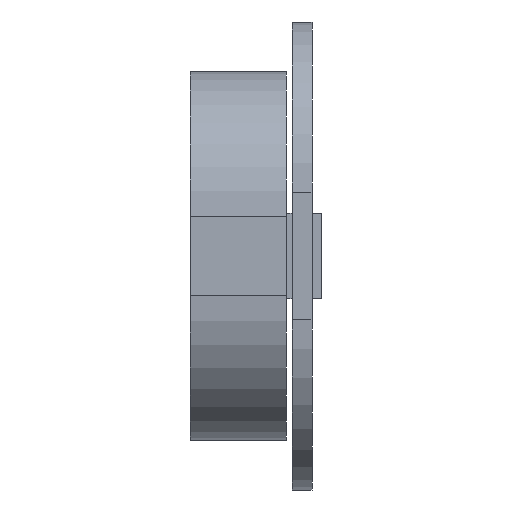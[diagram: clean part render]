
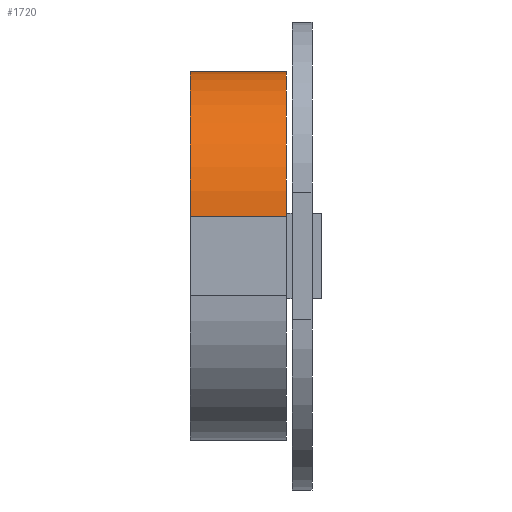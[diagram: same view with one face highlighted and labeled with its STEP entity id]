
A CAD part, front view. The second image highlights one B-rep face of the part: STEP entity #1720.
In plain terms, the highlighted cylindrical face has radius 5.1 mm (diameter 10.2 mm), a partial arc.
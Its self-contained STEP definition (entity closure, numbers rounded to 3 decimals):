
#974 = PLANE('',#975);
#975 = AXIS2_PLACEMENT_3D('',#976,#977,#978);
#976 = CARTESIAN_POINT('',(-40.9,-19.,6.5));
#977 = DIRECTION('',(-1.,0.,0.));
#978 = DIRECTION('',(0.,0.,1.));
#1316 = VERTEX_POINT('',#1317);
#1317 = CARTESIAN_POINT('',(-40.9,-13.9,6.5));
#1333 = PLANE('',#1334);
#1334 = AXIS2_PLACEMENT_3D('',#1335,#1336,#1337);
#1335 = CARTESIAN_POINT('',(-40.9,-19.,6.5));
#1336 = DIRECTION('',(0.,-0.,-1.));
#1337 = DIRECTION('',(1.,0.,0.));
#1345 = EDGE_CURVE('',#1316,#1346,#1348,.T.);
#1346 = VERTEX_POINT('',#1347);
#1347 = CARTESIAN_POINT('',(-40.9,-19.,1.4));
#1348 = SURFACE_CURVE('',#1349,(#1354,#1365),.PCURVE_S1.);
#1349 = CIRCLE('',#1350,5.1);
#1350 = AXIS2_PLACEMENT_3D('',#1351,#1352,#1353);
#1351 = CARTESIAN_POINT('',(-40.9,-13.9,1.4));
#1352 = DIRECTION('',(1.,0.,0.));
#1353 = DIRECTION('',(-0.,-1.,-0.));
#1354 = PCURVE('',#974,#1355);
#1355 = DEFINITIONAL_REPRESENTATION('',(#1356),#1364);
#1356 = ( BOUNDED_CURVE() B_SPLINE_CURVE(2,(#1357,#1358,#1359,#1360,
#1361,#1362,#1363),.UNSPECIFIED.,.T.,.F.) B_SPLINE_CURVE_WITH_KNOTS((1,2
    ,2,2,2,1),(-2.094,0.,2.094,4.189,
6.283,8.378),.UNSPECIFIED.) CURVE() 
GEOMETRIC_REPRESENTATION_ITEM() RATIONAL_B_SPLINE_CURVE((1.,0.5,1.,0.5,
1.,0.5,1.)) REPRESENTATION_ITEM('') );
#1357 = CARTESIAN_POINT('',(-5.1,0.));
#1358 = CARTESIAN_POINT('',(-13.933,0.));
#1359 = CARTESIAN_POINT('',(-9.517,7.65));
#1360 = CARTESIAN_POINT('',(-5.1,15.3));
#1361 = CARTESIAN_POINT('',(-0.683,7.65));
#1362 = CARTESIAN_POINT('',(3.733,0.));
#1363 = CARTESIAN_POINT('',(-5.1,0.));
#1364 = ( GEOMETRIC_REPRESENTATION_CONTEXT(2) 
PARAMETRIC_REPRESENTATION_CONTEXT() REPRESENTATION_CONTEXT('2D SPACE',''
  ) );
#1365 = PCURVE('',#1366,#1371);
#1366 = CYLINDRICAL_SURFACE('',#1367,5.1);
#1367 = AXIS2_PLACEMENT_3D('',#1368,#1369,#1370);
#1368 = CARTESIAN_POINT('',(-40.9,-13.9,1.4));
#1369 = DIRECTION('',(-1.,-0.,0.));
#1370 = DIRECTION('',(0.,-0.,1.));
#1371 = DEFINITIONAL_REPRESENTATION('',(#1372),#1376);
#1372 = LINE('',#1373,#1374);
#1373 = CARTESIAN_POINT('',(4.712,-0.));
#1374 = VECTOR('',#1375,1.);
#1375 = DIRECTION('',(-1.,0.));
#1376 = ( GEOMETRIC_REPRESENTATION_CONTEXT(2) 
PARAMETRIC_REPRESENTATION_CONTEXT() REPRESENTATION_CONTEXT('2D SPACE',''
  ) );
#1394 = PLANE('',#1395);
#1395 = AXIS2_PLACEMENT_3D('',#1396,#1397,#1398);
#1396 = CARTESIAN_POINT('',(-40.9,-19.,6.5));
#1397 = DIRECTION('',(0.,1.,0.));
#1398 = DIRECTION('',(1.,0.,0.));
#1568 = VERTEX_POINT('',#1569);
#1569 = CARTESIAN_POINT('',(-44.3,-13.9,6.5));
#1585 = PLANE('',#1586);
#1586 = AXIS2_PLACEMENT_3D('',#1587,#1588,#1589);
#1587 = CARTESIAN_POINT('',(-44.3,-19.,6.5));
#1588 = DIRECTION('',(-1.,0.,0.));
#1589 = DIRECTION('',(0.,0.,1.));
#1597 = EDGE_CURVE('',#1316,#1568,#1598,.T.);
#1598 = SURFACE_CURVE('',#1599,(#1603,#1610),.PCURVE_S1.);
#1599 = LINE('',#1600,#1601);
#1600 = CARTESIAN_POINT('',(-40.9,-13.9,6.5));
#1601 = VECTOR('',#1602,1.);
#1602 = DIRECTION('',(-1.,-0.,0.));
#1603 = PCURVE('',#1333,#1604);
#1604 = DEFINITIONAL_REPRESENTATION('',(#1605),#1609);
#1605 = LINE('',#1606,#1607);
#1606 = CARTESIAN_POINT('',(-0.,-5.1));
#1607 = VECTOR('',#1608,1.);
#1608 = DIRECTION('',(-1.,0.));
#1609 = ( GEOMETRIC_REPRESENTATION_CONTEXT(2) 
PARAMETRIC_REPRESENTATION_CONTEXT() REPRESENTATION_CONTEXT('2D SPACE',''
  ) );
#1610 = PCURVE('',#1366,#1611);
#1611 = DEFINITIONAL_REPRESENTATION('',(#1612),#1616);
#1612 = LINE('',#1613,#1614);
#1613 = CARTESIAN_POINT('',(-0.,0.));
#1614 = VECTOR('',#1615,1.);
#1615 = DIRECTION('',(-0.,1.));
#1616 = ( GEOMETRIC_REPRESENTATION_CONTEXT(2) 
PARAMETRIC_REPRESENTATION_CONTEXT() REPRESENTATION_CONTEXT('2D SPACE',''
  ) );
#1720 = ADVANCED_FACE('',(#1721),#1366,.T.);
#1721 = FACE_BOUND('',#1722,.F.);
#1722 = EDGE_LOOP('',(#1723,#1724,#1747,#1773));
#1723 = ORIENTED_EDGE('',*,*,#1345,.T.);
#1724 = ORIENTED_EDGE('',*,*,#1725,.T.);
#1725 = EDGE_CURVE('',#1346,#1726,#1728,.T.);
#1726 = VERTEX_POINT('',#1727);
#1727 = CARTESIAN_POINT('',(-44.3,-19.,1.4));
#1728 = SURFACE_CURVE('',#1729,(#1733,#1740),.PCURVE_S1.);
#1729 = LINE('',#1730,#1731);
#1730 = CARTESIAN_POINT('',(-40.9,-19.,1.4));
#1731 = VECTOR('',#1732,1.);
#1732 = DIRECTION('',(-1.,-0.,0.));
#1733 = PCURVE('',#1366,#1734);
#1734 = DEFINITIONAL_REPRESENTATION('',(#1735),#1739);
#1735 = LINE('',#1736,#1737);
#1736 = CARTESIAN_POINT('',(-1.571,0.));
#1737 = VECTOR('',#1738,1.);
#1738 = DIRECTION('',(-0.,1.));
#1739 = ( GEOMETRIC_REPRESENTATION_CONTEXT(2) 
PARAMETRIC_REPRESENTATION_CONTEXT() REPRESENTATION_CONTEXT('2D SPACE',''
  ) );
#1740 = PCURVE('',#1394,#1741);
#1741 = DEFINITIONAL_REPRESENTATION('',(#1742),#1746);
#1742 = LINE('',#1743,#1744);
#1743 = CARTESIAN_POINT('',(0.,5.1));
#1744 = VECTOR('',#1745,1.);
#1745 = DIRECTION('',(-1.,0.));
#1746 = ( GEOMETRIC_REPRESENTATION_CONTEXT(2) 
PARAMETRIC_REPRESENTATION_CONTEXT() REPRESENTATION_CONTEXT('2D SPACE',''
  ) );
#1747 = ORIENTED_EDGE('',*,*,#1748,.F.);
#1748 = EDGE_CURVE('',#1568,#1726,#1749,.T.);
#1749 = SURFACE_CURVE('',#1750,(#1755,#1762),.PCURVE_S1.);
#1750 = CIRCLE('',#1751,5.1);
#1751 = AXIS2_PLACEMENT_3D('',#1752,#1753,#1754);
#1752 = CARTESIAN_POINT('',(-44.3,-13.9,1.4));
#1753 = DIRECTION('',(1.,0.,0.));
#1754 = DIRECTION('',(-0.,-1.,-0.));
#1755 = PCURVE('',#1366,#1756);
#1756 = DEFINITIONAL_REPRESENTATION('',(#1757),#1761);
#1757 = LINE('',#1758,#1759);
#1758 = CARTESIAN_POINT('',(4.712,3.4));
#1759 = VECTOR('',#1760,1.);
#1760 = DIRECTION('',(-1.,0.));
#1761 = ( GEOMETRIC_REPRESENTATION_CONTEXT(2) 
PARAMETRIC_REPRESENTATION_CONTEXT() REPRESENTATION_CONTEXT('2D SPACE',''
  ) );
#1762 = PCURVE('',#1585,#1763);
#1763 = DEFINITIONAL_REPRESENTATION('',(#1764),#1772);
#1764 = ( BOUNDED_CURVE() B_SPLINE_CURVE(2,(#1765,#1766,#1767,#1768,
#1769,#1770,#1771),.UNSPECIFIED.,.T.,.F.) B_SPLINE_CURVE_WITH_KNOTS((1,2
    ,2,2,2,1),(-2.094,0.,2.094,4.189,
6.283,8.378),.UNSPECIFIED.) CURVE() 
GEOMETRIC_REPRESENTATION_ITEM() RATIONAL_B_SPLINE_CURVE((1.,0.5,1.,0.5,
1.,0.5,1.)) REPRESENTATION_ITEM('') );
#1765 = CARTESIAN_POINT('',(-5.1,0.));
#1766 = CARTESIAN_POINT('',(-13.933,0.));
#1767 = CARTESIAN_POINT('',(-9.517,7.65));
#1768 = CARTESIAN_POINT('',(-5.1,15.3));
#1769 = CARTESIAN_POINT('',(-0.683,7.65));
#1770 = CARTESIAN_POINT('',(3.733,0.));
#1771 = CARTESIAN_POINT('',(-5.1,0.));
#1772 = ( GEOMETRIC_REPRESENTATION_CONTEXT(2) 
PARAMETRIC_REPRESENTATION_CONTEXT() REPRESENTATION_CONTEXT('2D SPACE',''
  ) );
#1773 = ORIENTED_EDGE('',*,*,#1597,.F.);
